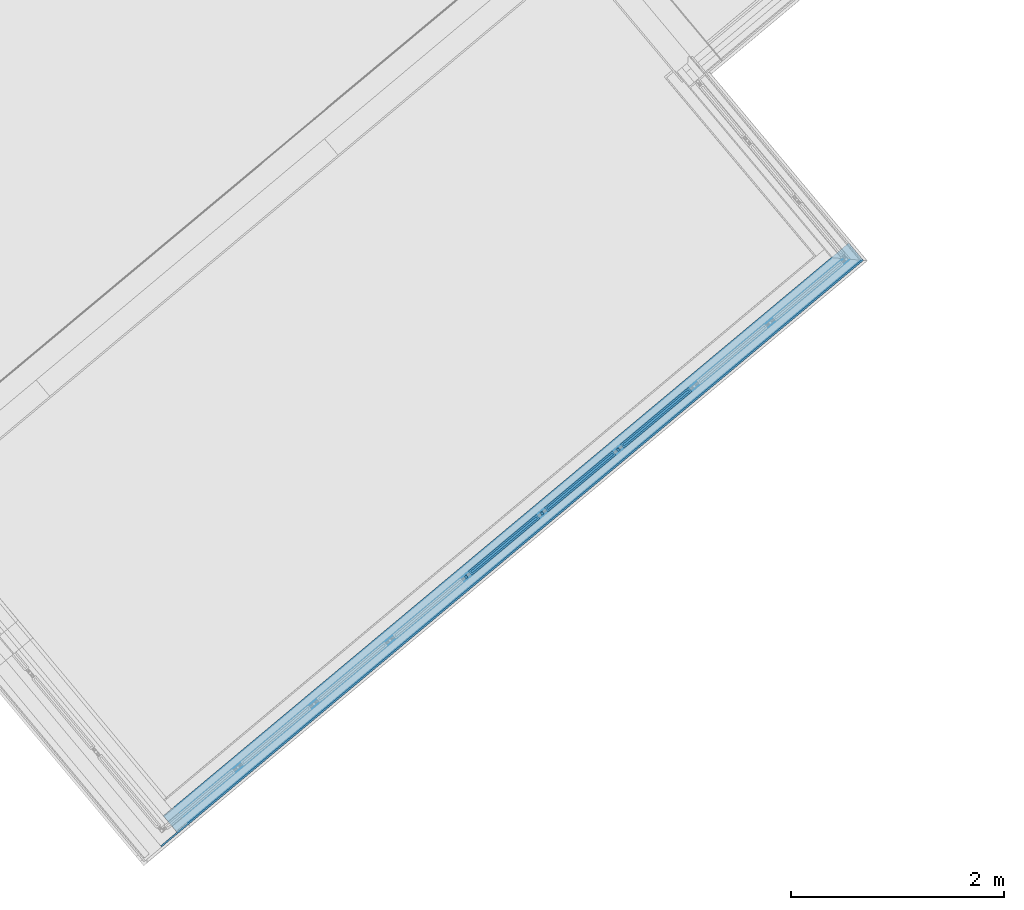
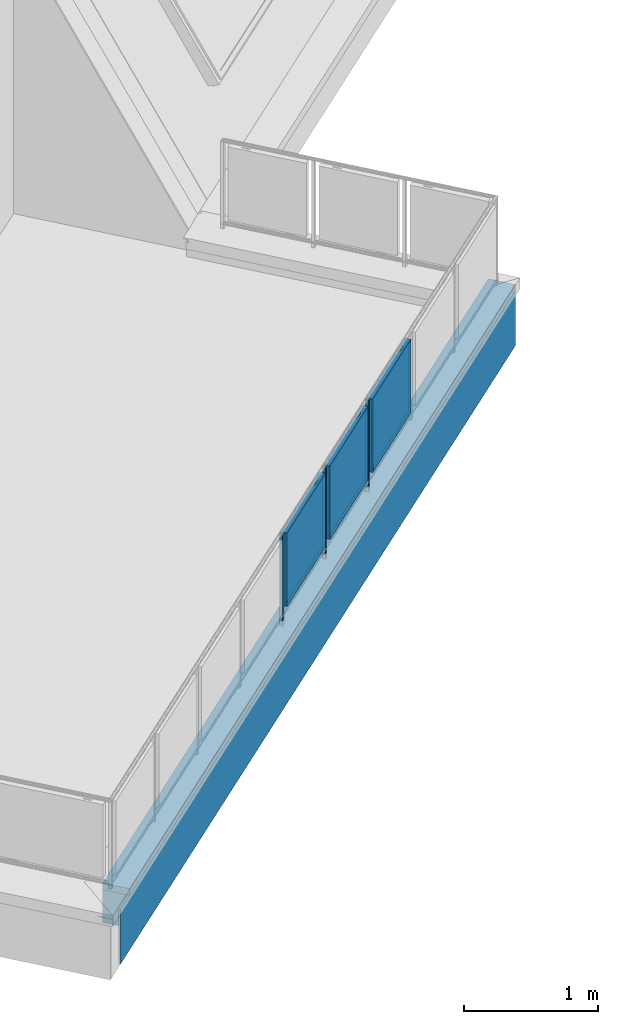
# One storey, part 20 of 61: 12 building element parts, 2 elements without a shape of their own.
"""IFC4 building model written with IfcOpenShell, lengths in metres."""

from ifc_helpers import new_model, entity, si_unit, converted_unit, derived_unit, direction, frame, origin_with_axes, place, context, subcontext, project, spatial, polygons, material, type_object, element, aggregate, save


model = new_model("IFC4")

# Units and contexts
model_context = context("Model", 3, precision=1e-05, world=origin_with_axes(), true_north=direction((0.0, 1.0)))
body_context = subcontext(model_context, "Body", "Model", "MODEL_VIEW")
ifc_project = project(units=[si_unit("LENGTHUNIT", "METRE"), si_unit("AREAUNIT", "SQUARE_METRE"), si_unit("VOLUMEUNIT", "CUBIC_METRE"), converted_unit("PLANEANGLEUNIT", "DEGREE", entity("IfcPlaneAngleMeasure", 0.0174532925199), si_unit("PLANEANGLEUNIT", "RADIAN"), dimensions=[0, 0, 0, 0, 0, 0, 0]), converted_unit("TIMEUNIT", "Year", entity("IfcTimeMeasure", 31556926.0), si_unit("TIMEUNIT", "SECOND"), dimensions=[0, 0, 1, 0, 0, 0, 0]), si_unit("MASSUNIT", "GRAM", prefix="KILO"), si_unit("THERMODYNAMICTEMPERATUREUNIT", "DEGREE_CELSIUS"), si_unit("LUMINOUSINTENSITYUNIT", "LUMEN"), si_unit("ENERGYUNIT", "JOULE", prefix="MEGA"), derived_unit("THERMALCONDUCTANCEUNIT", [(si_unit("POWERUNIT", "WATT"), 1), (si_unit("LENGTHUNIT", "METRE"), -1), (si_unit("THERMODYNAMICTEMPERATUREUNIT", "KELVIN"), -1)]), derived_unit("SPECIFICHEATCAPACITYUNIT", [(si_unit("ENERGYUNIT", "JOULE"), 1), (si_unit("MASSUNIT", "GRAM", prefix="KILO"), -1), (si_unit("THERMODYNAMICTEMPERATUREUNIT", "KELVIN"), -1)]), derived_unit("MASSDENSITYUNIT", [(si_unit("MASSUNIT", "GRAM", prefix="KILO"), 1), (si_unit("VOLUMEUNIT", "CUBIC_METRE"), -1)])], contexts=[model_context])

# Site, building, storey
site_placement = place(None, frame((-0.00153261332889, -0.00661245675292, 0.0), z_axis=(0.0, 0.0, 1.0), x_axis=(1.0, 0.0, 0.0)))
site = spatial("IfcSite", under=ifc_project, at=site_placement, Name="Gelände", CompositionType="ELEMENT")
building_placement = place(site_placement, origin_with_axes())
building = spatial("IfcBuilding", under=site, at=building_placement, Name="Gebäude", CompositionType="ELEMENT")
storey_placement = place(building_placement, frame((0.0, 0.0, 5.7), z_axis=(0.0, 0.0, 1.0), x_axis=(1.0, 0.0, 0.0)))
storey = spatial("IfcBuildingStorey", under=building, at=storey_placement, Name="DG1", CompositionType="ELEMENT", Elevation=5.7)

# Wall, building element parts
wall_type = type_object("IfcWallType", Name="Bauteil - Attika Balkon 356 x 610", PredefinedType="NOTDEFINED")
wall_placement = place(storey_placement, frame((0.456856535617, 6.75344693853, -0.2), z_axis=(0.0, 0.0, 1.0), x_axis=(0.767288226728, 0.641302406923, 0.0)))
wall = element("IfcWall", 1, at=wall_placement, inside=storey, type_object=wall_type, Name="Wand-003", PredefinedType="NOTDEFINED")
ifc_material_1 = material(Name="Stahlbeton")
building_element_part_1_placement = place(wall_placement, origin_with_axes())
building_element_part_1 = element("IfcBuildingElementPart", 2, at=building_element_part_1_placement, material=ifc_material_1, Name="Stahlbeton", PredefinedType="NOTDEFINED", context=body_context, shape_type="Tessellation", body=[
    polygons([(8.57869961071, -0.19999996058, 0.498915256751), (8.57869961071, -0.19999996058, 0.500000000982), (0.199908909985, -0.19999996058, 0.500000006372), (0.199908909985, -0.19999996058, 0.498915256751), (0.199908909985, -0.19999996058, 0.498822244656), (0.199908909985, -0.19999996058, 0.496604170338), (0.199908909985, -0.19999996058, 0.491006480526), (0.199908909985, -0.19999996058, 0.488695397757), (0.199908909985, -0.19999996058, 0.334999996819), (0.199908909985, -0.19999996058, 0.200000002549), (8.57869961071, -0.19999996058, 0.2), (8.57869961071, -0.19999996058, 0.334999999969), (8.57869961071, -0.19999996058, 0.496604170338), (8.57858255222, -1.05297193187e-09, 0.500000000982), (8.57858255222, -1.05297193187e-09, 0.498915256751), (0.200000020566, -1.05297015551e-09, 0.500000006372), (0.200000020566, -1.05297282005e-09, 0.498915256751), (0.200000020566, -1.05297282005e-09, 0.498822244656), (0.200000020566, -1.05297282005e-09, 0.496604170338), (0.200000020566, -1.05297282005e-09, 0.491006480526), (0.200000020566, -1.05297282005e-09, 0.488695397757), (0.200000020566, -1.05297282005e-09, 0.334999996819), (0.200000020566, -1.05297282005e-09, 0.200000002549), (8.57858255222, -1.05297370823e-09, 0.2), (8.57858255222, -1.05297193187e-09, 0.334999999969), (8.57858255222, -1.05297193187e-09, 0.496604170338)], [[[1, 2, 3, 4, 5, 6, 7, 8, 9, 10, 11, 12, 13]], [[14, 2, 1, 15]], [[2, 14, 16, 3]], [[4, 3, 16, 17]], [[4, 17, 18, 5]], [[5, 18, 19, 6]], [[6, 19, 20, 7]], [[7, 20, 21, 8]], [[8, 21, 22, 9]], [[9, 22, 23, 10]], [[24, 11, 10, 23]], [[25, 12, 11, 24]], [[26, 13, 12, 25]], [[15, 1, 13, 26]], [[14, 15, 26, 25, 22, 21, 20, 19, 18, 17, 16]], [[25, 24, 23, 22]]], closed=True),
])
ifc_material_2 = material(Name="Brettschichtholz")
building_element_part_2_placement = place(wall_placement, origin_with_axes())
building_element_part_2 = element("IfcBuildingElementPart", 3, at=building_element_part_2_placement, material=ifc_material_2, Name="Brettschichtholz", PredefinedType="NOTDEFINED", context=body_context, shape_type="Tessellation", body=[
    polygons([(8.59370840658, -0.214999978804, 0.519273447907), (8.59370840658, -0.214999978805, 0.56000000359), (0.199902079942, -0.214999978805, 0.560000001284), (0.199902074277, -0.214999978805, 0.519273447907), (0.199902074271, -0.214999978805, 0.519224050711), (0.199902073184, -0.214999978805, 0.511410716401), (0.199902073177, -0.214999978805, 0.51136132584), (0.199902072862, -0.214999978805, 0.509099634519), (0.199902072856, -0.214999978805, 0.509050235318), (0.199902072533, -0.214999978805, 0.506731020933), (0.199902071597, -0.214999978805, 0.500000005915), (8.59370840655, -0.214999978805, 0.499999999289), (8.59370840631, -0.214999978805, 0.509099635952), (8.59370840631, -0.214999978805, 0.511410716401), (8.59369384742, -0.190124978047, 0.56000000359), (8.59358256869, 0.0, 0.519273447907), (8.59358256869, 0.0, 0.56000000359), (8.59358850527, -0.010142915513, 0.56000000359), (8.59362362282, -0.0701429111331, 0.56000000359), (8.59365872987, -0.130124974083, 0.56000000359), (0.199913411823, -0.190124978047, 0.560000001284), (0.199940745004, -0.130124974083, 0.560000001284), (0.199968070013, -0.0701429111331, 0.560000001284), (0.199995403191, -0.010142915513, 0.560000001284), (0.200000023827, 0.0, 0.560000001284), (0.200000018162, 0.0, 0.519273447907), (0.200000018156, 0.0, 0.519224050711), (0.200000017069, 0.0, 0.511410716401), (0.200000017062, 0.0, 0.51136132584), (0.200000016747, 0.0, 0.509099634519), (0.200000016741, 0.0, 0.509050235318), (0.200000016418, 0.0, 0.506731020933), (0.200000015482, 0.0, 0.500000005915), (8.59358256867, 0.0, 0.499999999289), (8.59358256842, 0.0, 0.509099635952), (8.59358256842, 0.0, 0.511410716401)], [[[1, 2, 3, 4, 5, 6, 7, 8, 9, 10, 11, 12, 13, 14]], [[15, 2, 1, 16, 17, 18, 19, 20]], [[2, 15, 21, 3]], [[4, 3, 21, 22, 23, 24, 25, 26]], [[4, 26, 27, 5]], [[5, 27, 28, 6]], [[6, 28, 29, 7]], [[7, 29, 30, 8]], [[8, 30, 31, 9]], [[9, 31, 32, 10]], [[10, 32, 33, 11]], [[11, 33, 34, 12]], [[35, 13, 12, 34]], [[36, 14, 13, 35]], [[16, 1, 14, 36]], [[17, 16, 36, 35, 34, 33, 32, 31, 30, 29, 28, 27, 26, 25]], [[18, 17, 25, 24]], [[19, 18, 24, 23]], [[20, 19, 23, 22]], [[15, 20, 22, 21]]], closed=True),
])
ifc_material_3 = material(Name="Zementputz")
building_element_part_3_placement = place(wall_placement, origin_with_axes())
building_element_part_3 = element("IfcBuildingElementPart", 4, at=building_element_part_3_placement, material=ifc_material_3, Name="Zementputz", PredefinedType="NOTDEFINED", context=body_context, shape_type="Tessellation", body=[
    polygons([(-9.11134853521e-05, -0.199999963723, 0.500000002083), (-9.79467871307e-05, -0.214999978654, 0.500000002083), (8.59370840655, -0.214999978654, 0.499999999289), (8.59369962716, -0.199999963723, 0.499999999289), (-9.79467865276e-05, -0.214999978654, 0.498915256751), (-9.11134847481e-05, -0.199999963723, 0.498915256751), (-9.79467864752e-05, -0.214999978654, 0.498822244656), (-9.79467852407e-05, -0.214999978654, 0.496604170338), (-9.79467821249e-05, -0.214999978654, 0.491006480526), (-9.79467808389e-05, -0.214999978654, 0.488695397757), (-9.79466952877e-05, -0.214999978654, 0.335), (-9.79466201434e-05, -0.214999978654, 0.200000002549), (-9.79467871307e-05, -0.214999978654, 0.0), (8.59370840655, -0.214999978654, 0.0), (8.59369962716, -0.199999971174, 0.0), (8.59369962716, -0.199999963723, 0.200000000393), (-9.11133183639e-05, -0.199999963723, 0.200000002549), (-9.11133935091e-05, -0.199999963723, 0.335), (-9.11134790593e-05, -0.199999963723, 0.488695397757), (-9.11134803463e-05, -0.199999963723, 0.491006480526), (-9.11134834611e-05, -0.199999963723, 0.496604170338), (-9.11134846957e-05, -0.199999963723, 0.498822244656), (-9.11134887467e-05, -0.199999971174, 0.0)], [[[1, 2, 3, 4]], [[5, 2, 1, 6]], [[2, 5, 7, 8, 9, 10, 11, 12, 13, 14, 3]], [[4, 3, 14, 15, 16]], [[6, 1, 4, 16, 17, 18, 19, 20, 21, 22]], [[5, 6, 22, 7]], [[7, 22, 21, 8]], [[8, 21, 20, 9]], [[9, 20, 19, 10]], [[10, 19, 18, 11]], [[11, 18, 17, 12]], [[12, 17, 23, 13]], [[13, 23, 15, 14]], [[23, 17, 16, 15]]], closed=True),
])
aggregate(wall, [building_element_part_1, building_element_part_2, building_element_part_3])

# Space
space_placement = place(storey_placement, frame((-1.65459986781, 9.80045444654, 0.22), z_axis=(0.0, 0.0, 1.0), x_axis=(0.640908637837, -0.767617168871, 0.0)))
space = spatial("IfcSpace", under=storey, at=space_placement, CompositionType="ELEMENT", PredefinedType="NOTDEFINED")

# Railing, building element parts
railing_type = type_object("IfcRailingType", Name="Geländerart", PredefinedType="NOTDEFINED")
railing_placement = place(space_placement, frame((-0.0155551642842, 0.517171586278, 0.16), z_axis=(0.0, 0.0, 1.0), x_axis=(0.640908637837, 0.767617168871, 0.0)))
railing = element("IfcRailing", 5, at=railing_placement, inside=space, type_object=railing_type, Name="Geländer - 001", PredefinedType="NOTDEFINED")
ifc_material_4 = material(Name="Aluminium")
building_element_part_4_placement = place(railing_placement, origin_with_axes())
building_element_part_4 = element("IfcBuildingElementPart", 6, at=building_element_part_4_placement, material=ifc_material_4, Name="Aluminium", PredefinedType="NOTDEFINED", context=body_context, shape_type="Tessellation", body=[
    polygons([(4.74047286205, -1.01688750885, -0.3), (4.72444303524, -0.997703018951, -0.3), (4.72444303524, -0.997703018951, 0.82), (4.74047286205, -1.01688750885, 0.82), (4.72128837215, -1.03291733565, -0.3), (4.70525854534, -1.01373284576, -0.3), (4.70525854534, -1.01373284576, 0.82), (4.72128837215, -1.03291733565, 0.82)], [[[1, 2, 3, 4]], [[1, 5, 6, 2]], [[2, 6, 7, 3]], [[4, 3, 7, 8]], [[5, 1, 4, 8]], [[6, 5, 8, 7]]], closed=True),
])
ifc_material_5 = material(Name="Profilit")
building_element_part_5_placement = place(railing_placement, origin_with_axes())
building_element_part_5 = element("IfcBuildingElementPart", 7, at=building_element_part_5_placement, material=ifc_material_5, Name="Profilit", PredefinedType="NOTDEFINED", context=body_context, shape_type="Tessellation", body=[
    polygons([(5.3809767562, -0.452386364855, 0.135), (4.7663334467, -0.965958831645, 0.135), (4.7663334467, -0.965958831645, 0.775), (5.3809767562, -0.452386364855, 0.775), (4.77915730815, -0.981306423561, 0.135), (5.39380061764, -0.467733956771, 0.135), (4.77915730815, -0.981306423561, 0.775), (5.39380061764, -0.467733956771, 0.775)], [[[1, 2, 3, 4]], [[5, 2, 1, 6]], [[7, 3, 2, 5]], [[4, 3, 7, 8]], [[1, 4, 8, 6]], [[7, 5, 6, 8]]], closed=True),
])
building_element_part_6_placement = place(railing_placement, origin_with_axes())
building_element_part_6 = element("IfcBuildingElementPart", 8, at=building_element_part_6_placement, material=ifc_material_4, Name="Aluminium", PredefinedType="NOTDEFINED", context=body_context, shape_type="Tessellation", body=[
    polygons([(4.83636966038, -0.917212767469, 0.12), (4.89008623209, -0.872329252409, 0.12), (4.89008623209, -0.872329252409, 0.095), (4.83636966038, -0.917212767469, 0.095), (4.83957562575, -0.921049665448, 0.12), (4.89329219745, -0.876166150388, 0.12), (4.89329219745, -0.876166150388, 0.095), (4.83957562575, -0.921049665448, 0.095)], [[[1, 2, 3, 4]], [[5, 6, 2, 1]], [[2, 6, 7, 3]], [[4, 3, 7, 8]], [[1, 4, 8, 5]], [[8, 7, 6, 5]]], closed=True),
    polygons([(5.3205584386, -0.512643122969, 0.79), (5.26684186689, -0.557526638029, 0.79), (5.26684186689, -0.557526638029, 0.795), (5.3205584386, -0.512643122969, 0.795), (5.32376440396, -0.516480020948, 0.79), (5.27004783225, -0.561363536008, 0.79), (5.27004783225, -0.561363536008, 0.795), (5.32376440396, -0.516480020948, 0.795)], [[[1, 2, 3, 4]], [[5, 6, 2, 1]], [[2, 6, 7, 3]], [[4, 3, 7, 8]], [[1, 4, 8, 5]], [[8, 7, 6, 5]]], closed=True),
    polygons([(4.77726451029, -1.00243501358, 0.12), (4.74520485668, -0.964066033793, 0.12), (5.38286955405, -0.431257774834, 0.12), (5.41492920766, -0.469626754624, 0.12), (4.79261210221, -0.989611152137, 0.14), (4.78299420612, -0.9781004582, 0.14), (4.77915730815, -0.981306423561, 0.135), (4.7663334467, -0.965958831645, 0.135), (4.77017034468, -0.962752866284, 0.14), (4.76055244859, -0.951242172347, 0.14), (5.36752196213, -0.44408163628, 0.14), (5.36752196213, -0.44408163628, 0.77), (4.76055244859, -0.951242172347, 0.77), (4.76055244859, -0.951242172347, 0.14), (4.74520485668, -0.964066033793, 0.12), (4.74520485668, -0.964066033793, 0.79), (5.38286955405, -0.431257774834, 0.79), (5.41492920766, -0.469626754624, 0.79), (4.77726451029, -1.00243501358, 0.79), (4.77726451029, -1.00243501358, 0.12), (4.79261210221, -0.989611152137, 0.14), (4.79261210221, -0.989611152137, 0.77), (5.39958161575, -0.48245061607, 0.77), (5.39958161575, -0.48245061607, 0.14), (5.38996371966, -0.470939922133, 0.14), (5.38996371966, -0.470939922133, 0.77), (4.78299420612, -0.9781004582, 0.77), (4.78299420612, -0.9781004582, 0.14), (4.77915730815, -0.981306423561, 0.135), (4.77915730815, -0.981306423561, 0.775), (5.39380061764, -0.467733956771, 0.775), (5.39380061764, -0.467733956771, 0.135), (5.3809767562, -0.452386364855, 0.135), (5.3809767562, -0.452386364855, 0.775), (4.7663334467, -0.965958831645, 0.775), (4.7663334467, -0.965958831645, 0.135), (4.77017034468, -0.962752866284, 0.14), (4.77017034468, -0.962752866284, 0.77), (5.37713985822, -0.455592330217, 0.77), (5.37713985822, -0.455592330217, 0.14)], [[[1, 2, 3, 4]], [[1, 5, 6, 7, 8, 9, 10, 2]], [[2, 10, 11, 12, 13, 14, 15, 16, 17, 3]], [[4, 3, 17, 18]], [[5, 1, 4, 18, 19, 20, 21, 22, 23, 24]], [[6, 5, 24, 25]], [[7, 6, 25, 26, 27, 28, 29, 30, 31, 32]], [[8, 7, 32, 33]], [[9, 8, 33, 34, 35, 36, 37, 38, 39, 40]], [[10, 9, 40, 11]], [[11, 40, 39, 12]], [[12, 39, 38, 13]], [[13, 38, 37, 14]], [[20, 15, 14, 37, 36, 29, 28, 21]], [[19, 16, 15, 20]], [[18, 17, 16, 19]], [[27, 22, 21, 28]], [[26, 23, 22, 27]], [[25, 24, 23, 26]], [[35, 30, 29, 36]], [[34, 31, 30, 35]], [[33, 32, 31, 34]]], closed=True),
])
building_element_part_7_placement = place(railing_placement, origin_with_axes())
building_element_part_7 = element("IfcBuildingElementPart", 9, at=building_element_part_7_placement, material=ifc_material_4, Name="Aluminium", PredefinedType="NOTDEFINED", context=body_context, shape_type="Tessellation", body=[
    polygons([(5.454875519, -0.419959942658, -0.3), (5.43884569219, -0.400775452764, -0.3), (5.43884569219, -0.400775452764, 0.82), (5.454875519, -0.419959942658, 0.82), (5.4356910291, -0.435989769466, -0.3), (5.4196612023, -0.416805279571, -0.3), (5.4196612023, -0.416805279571, 0.82), (5.4356910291, -0.435989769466, 0.82)], [[[1, 2, 3, 4]], [[1, 5, 6, 2]], [[2, 6, 7, 3]], [[4, 3, 7, 8]], [[5, 1, 4, 8]], [[6, 5, 8, 7]]], closed=True),
])
building_element_part_8_placement = place(railing_placement, origin_with_axes())
building_element_part_8 = element("IfcBuildingElementPart", 10, at=building_element_part_8_placement, material=ifc_material_5, Name="Profilit", PredefinedType="NOTDEFINED", context=body_context, shape_type="Tessellation", body=[
    polygons([(6.09537941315, 0.144541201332, 0.135), (5.48073610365, -0.369031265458, 0.135), (5.48073610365, -0.369031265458, 0.775), (6.09537941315, 0.144541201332, 0.775), (5.4935599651, -0.384378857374, 0.135), (6.10820327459, 0.129193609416, 0.135), (5.4935599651, -0.384378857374, 0.775), (6.10820327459, 0.129193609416, 0.775)], [[[1, 2, 3, 4]], [[5, 2, 1, 6]], [[7, 3, 2, 5]], [[4, 3, 7, 8]], [[1, 4, 8, 6]], [[7, 5, 6, 8]]], closed=True),
])
building_element_part_9_placement = place(railing_placement, origin_with_axes())
building_element_part_9 = element("IfcBuildingElementPart", 11, at=building_element_part_9_placement, material=ifc_material_4, Name="Aluminium", PredefinedType="NOTDEFINED", context=body_context, shape_type="Tessellation", body=[
    polygons([(5.55077231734, -0.320285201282, 0.12), (5.60448888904, -0.275401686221, 0.12), (5.60448888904, -0.275401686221, 0.095), (5.55077231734, -0.320285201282, 0.095), (5.5539782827, -0.324122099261, 0.12), (5.6076948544, -0.2792385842, 0.12), (5.6076948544, -0.2792385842, 0.095), (5.5539782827, -0.324122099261, 0.095)], [[[1, 2, 3, 4]], [[5, 6, 2, 1]], [[2, 6, 7, 3]], [[4, 3, 7, 8]], [[1, 4, 8, 5]], [[8, 7, 6, 5]]], closed=True),
    polygons([(6.03496109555, 0.0842844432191, 0.79), (5.98124452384, 0.0394009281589, 0.79), (5.98124452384, 0.0394009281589, 0.795), (6.03496109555, 0.0842844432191, 0.795), (6.03816706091, 0.0804475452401, 0.79), (5.9844504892, 0.0355640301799, 0.79), (5.9844504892, 0.0355640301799, 0.795), (6.03816706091, 0.0804475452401, 0.795)], [[[1, 2, 3, 4]], [[5, 6, 2, 1]], [[2, 6, 7, 3]], [[4, 3, 7, 8]], [[1, 4, 8, 5]], [[8, 7, 6, 5]]], closed=True),
    polygons([(5.49166716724, -0.405507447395, 0.12), (5.45960751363, -0.367138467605, 0.12), (6.097272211, 0.165669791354, 0.12), (6.12933186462, 0.127300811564, 0.12), (5.50701475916, -0.392683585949, 0.14), (5.49739686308, -0.381172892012, 0.14), (5.4935599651, -0.384378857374, 0.135), (5.48073610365, -0.369031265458, 0.135), (5.48457300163, -0.365825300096, 0.14), (5.47495510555, -0.354314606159, 0.14), (6.08192461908, 0.152845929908, 0.14), (6.08192461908, 0.152845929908, 0.77), (5.47495510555, -0.354314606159, 0.77), (5.47495510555, -0.354314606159, 0.14), (5.45960751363, -0.367138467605, 0.12), (5.45960751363, -0.367138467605, 0.79), (6.097272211, 0.165669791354, 0.79), (6.12933186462, 0.127300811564, 0.79), (5.49166716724, -0.405507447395, 0.79), (5.49166716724, -0.405507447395, 0.12), (5.50701475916, -0.392683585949, 0.14), (5.50701475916, -0.392683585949, 0.77), (6.1139842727, 0.114476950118, 0.77), (6.1139842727, 0.114476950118, 0.14), (6.10436637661, 0.125987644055, 0.14), (6.10436637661, 0.125987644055, 0.77), (5.49739686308, -0.381172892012, 0.77), (5.49739686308, -0.381172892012, 0.14), (5.4935599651, -0.384378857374, 0.135), (5.4935599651, -0.384378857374, 0.775), (6.10820327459, 0.129193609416, 0.775), (6.10820327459, 0.129193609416, 0.135), (6.09537941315, 0.144541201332, 0.135), (6.09537941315, 0.144541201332, 0.775), (5.48073610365, -0.369031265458, 0.775), (5.48073610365, -0.369031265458, 0.135), (5.48457300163, -0.365825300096, 0.14), (5.48457300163, -0.365825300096, 0.77), (6.09154251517, 0.141335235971, 0.77), (6.09154251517, 0.141335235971, 0.14)], [[[1, 2, 3, 4]], [[1, 5, 6, 7, 8, 9, 10, 2]], [[2, 10, 11, 12, 13, 14, 15, 16, 17, 3]], [[4, 3, 17, 18]], [[5, 1, 4, 18, 19, 20, 21, 22, 23, 24]], [[6, 5, 24, 25]], [[7, 6, 25, 26, 27, 28, 29, 30, 31, 32]], [[8, 7, 32, 33]], [[9, 8, 33, 34, 35, 36, 37, 38, 39, 40]], [[10, 9, 40, 11]], [[11, 40, 39, 12]], [[12, 39, 38, 13]], [[13, 38, 37, 14]], [[20, 15, 14, 37, 36, 29, 28, 21]], [[19, 16, 15, 20]], [[18, 17, 16, 19]], [[27, 22, 21, 28]], [[26, 23, 22, 27]], [[25, 24, 23, 26]], [[35, 30, 29, 36]], [[34, 31, 30, 35]], [[33, 32, 31, 34]]], closed=True),
])
building_element_part_10_placement = place(railing_placement, origin_with_axes())
building_element_part_10 = element("IfcBuildingElementPart", 12, at=building_element_part_10_placement, material=ifc_material_4, Name="Aluminium", PredefinedType="NOTDEFINED", context=body_context, shape_type="Tessellation", body=[
    polygons([(6.16927817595, 0.176967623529, -0.3), (6.15324834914, 0.196152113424, -0.3), (6.15324834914, 0.196152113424, 0.82), (6.16927817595, 0.176967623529, 0.82), (6.15009368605, 0.160937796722, -0.3), (6.13406385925, 0.180122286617, -0.3), (6.13406385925, 0.180122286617, 0.82), (6.15009368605, 0.160937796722, 0.82)], [[[1, 2, 3, 4]], [[1, 5, 6, 2]], [[2, 6, 7, 3]], [[4, 3, 7, 8]], [[5, 1, 4, 8]], [[6, 5, 8, 7]]], closed=True),
])
building_element_part_11_placement = place(railing_placement, origin_with_axes())
building_element_part_11 = element("IfcBuildingElementPart", 13, at=building_element_part_11_placement, material=ifc_material_5, Name="Profilit", PredefinedType="NOTDEFINED", context=body_context, shape_type="Tessellation", body=[
    polygons([(6.8097820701, 0.74146876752, 0.135), (6.1951387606, 0.22789630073, 0.135), (6.1951387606, 0.22789630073, 0.775), (6.8097820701, 0.74146876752, 0.775), (6.20796262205, 0.212548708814, 0.135), (6.82260593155, 0.726121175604, 0.135), (6.20796262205, 0.212548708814, 0.775), (6.82260593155, 0.726121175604, 0.775)], [[[1, 2, 3, 4]], [[5, 2, 1, 6]], [[7, 3, 2, 5]], [[4, 3, 7, 8]], [[1, 4, 8, 6]], [[7, 5, 6, 8]]], closed=True),
])
building_element_part_12_placement = place(railing_placement, origin_with_axes())
building_element_part_12 = element("IfcBuildingElementPart", 14, at=building_element_part_12_placement, material=ifc_material_4, Name="Aluminium", PredefinedType="NOTDEFINED", context=body_context, shape_type="Tessellation", body=[
    polygons([(6.26517497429, 0.276642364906, 0.12), (6.31889154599, 0.321525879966, 0.12), (6.31889154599, 0.321525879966, 0.095), (6.26517497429, 0.276642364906, 0.095), (6.26838093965, 0.272805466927, 0.12), (6.32209751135, 0.317688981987, 0.12), (6.32209751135, 0.317688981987, 0.095), (6.26838093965, 0.272805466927, 0.095)], [[[1, 2, 3, 4]], [[5, 6, 2, 1]], [[2, 6, 7, 3]], [[4, 3, 7, 8]], [[1, 4, 8, 5]], [[8, 7, 6, 5]]], closed=True),
    polygons([(6.7493637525, 0.681212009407, 0.79), (6.69564718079, 0.636328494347, 0.79), (6.69564718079, 0.636328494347, 0.795), (6.7493637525, 0.681212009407, 0.795), (6.75256971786, 0.677375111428, 0.79), (6.69885314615, 0.632491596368, 0.79), (6.69885314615, 0.632491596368, 0.795), (6.75256971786, 0.677375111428, 0.795)], [[[1, 2, 3, 4]], [[5, 6, 2, 1]], [[2, 6, 7, 3]], [[4, 3, 7, 8]], [[1, 4, 8, 5]], [[8, 7, 6, 5]]], closed=True),
    polygons([(6.2060698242, 0.191420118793, 0.12), (6.17401017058, 0.229789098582, 0.12), (6.81167486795, 0.762597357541, 0.12), (6.84373452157, 0.724228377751, 0.12), (6.22141741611, 0.204243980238, 0.14), (6.21179952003, 0.215754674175, 0.14), (6.20796262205, 0.212548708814, 0.135), (6.1951387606, 0.22789630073, 0.135), (6.19897565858, 0.231102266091, 0.14), (6.1893577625, 0.242612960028, 0.14), (6.79632727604, 0.749773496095, 0.14), (6.79632727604, 0.749773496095, 0.77), (6.1893577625, 0.242612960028, 0.77), (6.1893577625, 0.242612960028, 0.14), (6.17401017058, 0.229789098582, 0.12), (6.17401017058, 0.229789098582, 0.79), (6.81167486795, 0.762597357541, 0.79), (6.84373452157, 0.724228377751, 0.79), (6.2060698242, 0.191420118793, 0.79), (6.2060698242, 0.191420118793, 0.12), (6.22141741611, 0.204243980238, 0.14), (6.22141741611, 0.204243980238, 0.77), (6.82838692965, 0.711404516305, 0.77), (6.82838692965, 0.711404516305, 0.14), (6.81876903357, 0.722915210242, 0.14), (6.81876903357, 0.722915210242, 0.77), (6.21179952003, 0.215754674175, 0.77), (6.21179952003, 0.215754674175, 0.14), (6.20796262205, 0.212548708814, 0.135), (6.20796262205, 0.212548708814, 0.775), (6.82260593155, 0.726121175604, 0.775), (6.82260593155, 0.726121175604, 0.135), (6.8097820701, 0.74146876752, 0.135), (6.8097820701, 0.74146876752, 0.775), (6.1951387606, 0.22789630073, 0.775), (6.1951387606, 0.22789630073, 0.135), (6.19897565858, 0.231102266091, 0.14), (6.19897565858, 0.231102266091, 0.77), (6.80594517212, 0.738262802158, 0.77), (6.80594517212, 0.738262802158, 0.14)], [[[1, 2, 3, 4]], [[1, 5, 6, 7, 8, 9, 10, 2]], [[2, 10, 11, 12, 13, 14, 15, 16, 17, 3]], [[4, 3, 17, 18]], [[5, 1, 4, 18, 19, 20, 21, 22, 23, 24]], [[6, 5, 24, 25]], [[7, 6, 25, 26, 27, 28, 29, 30, 31, 32]], [[8, 7, 32, 33]], [[9, 8, 33, 34, 35, 36, 37, 38, 39, 40]], [[10, 9, 40, 11]], [[11, 40, 39, 12]], [[12, 39, 38, 13]], [[13, 38, 37, 14]], [[20, 15, 14, 37, 36, 29, 28, 21]], [[19, 16, 15, 20]], [[18, 17, 16, 19]], [[27, 22, 21, 28]], [[26, 23, 22, 27]], [[25, 24, 23, 26]], [[35, 30, 29, 36]], [[34, 31, 30, 35]], [[33, 32, 31, 34]]], closed=True),
])
aggregate(railing, [building_element_part_4, building_element_part_5, building_element_part_6, building_element_part_7, building_element_part_8, building_element_part_9, building_element_part_10, building_element_part_11, building_element_part_12])

save(model, "model.ifc")
